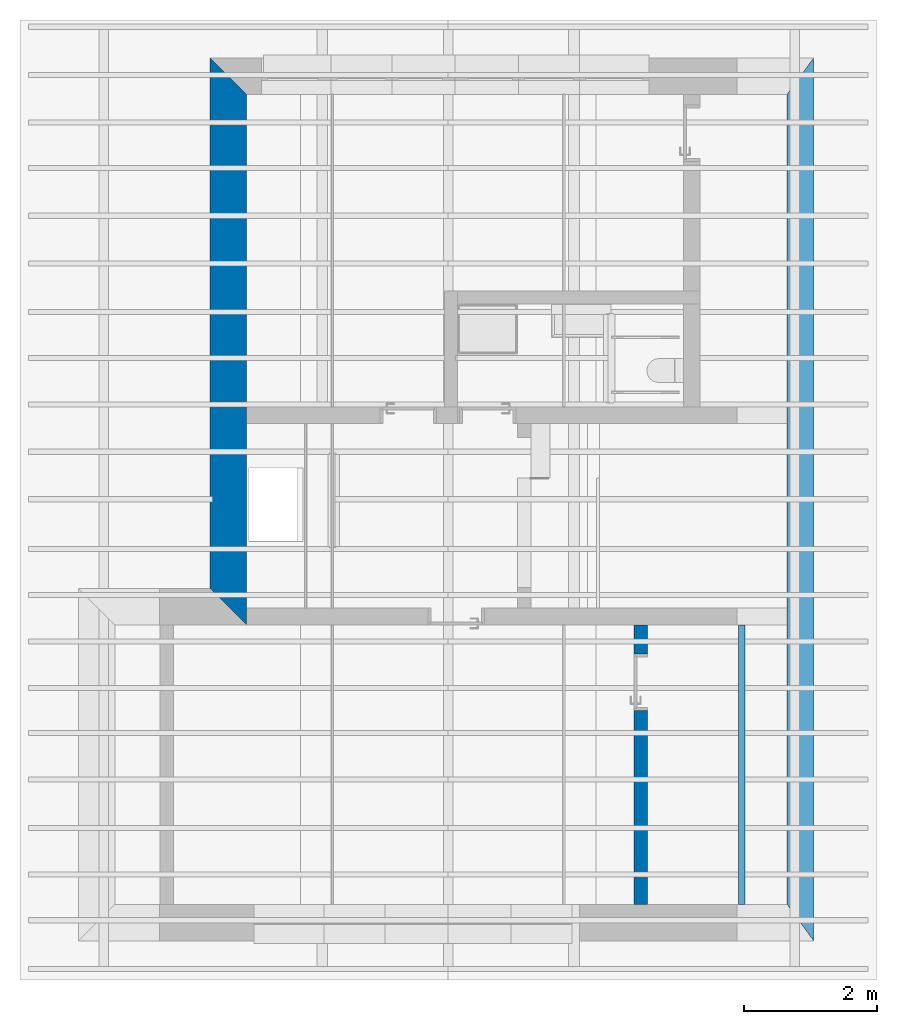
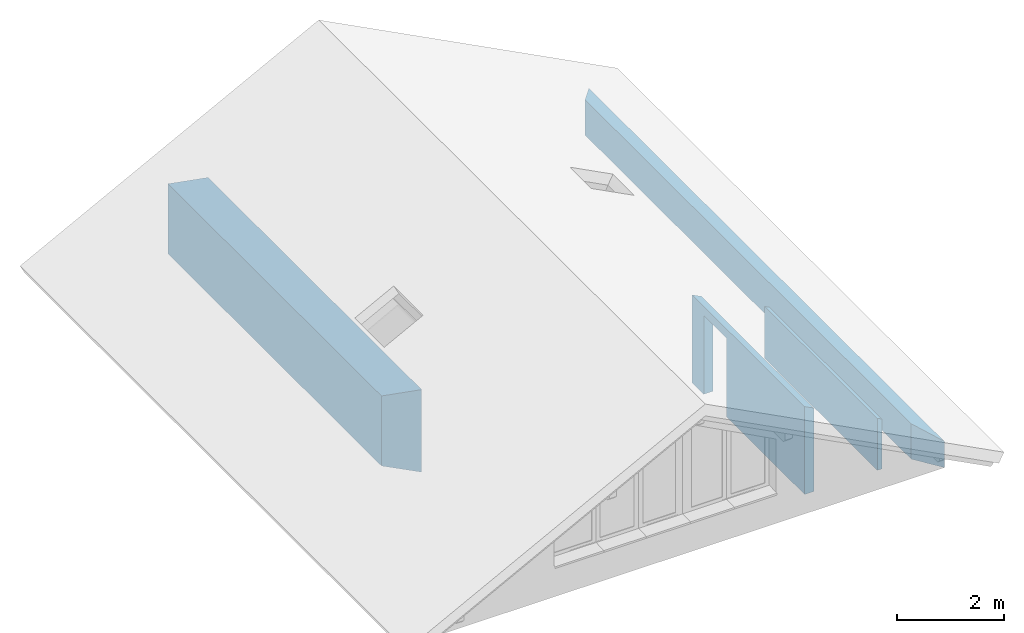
# One storey, part 7 of 18: 4 walls, 1 opening.
"""IFC2X3 building model written with IfcOpenShell, lengths in metres."""

from ifc_helpers import new_model, entity, si_unit, converted_unit, derived_unit, direction, frame, frame_2d, origin, place, context, subcontext, project, spatial, polyline, rectangle, outline, extrude, clip, bounded_halfspace, material, layer, layer_set, layer_usage, type_object, element, save


model = new_model("IFC2X3")

# Units and contexts
model_context = context("Model", 3, precision=1e-05, world=origin(), true_north=direction((6.123233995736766e-17, 1.0)))
body_context = subcontext(model_context, "Body", "Model", "MODEL_VIEW")
ifc_project = project(units=[si_unit("LENGTHUNIT", "METRE"), si_unit("AREAUNIT", "SQUARE_METRE"), si_unit("VOLUMEUNIT", "CUBIC_METRE"), si_unit("POWERUNIT", "WATT"), derived_unit("USERDEFINED", [(si_unit("MASSUNIT", "GRAM", prefix="KILO"), 1), (si_unit("TIMEUNIT", "SECOND"), -3)]), derived_unit("THERMALRESISTANCEUNIT", [(si_unit("MASSUNIT", "GRAM", prefix="KILO"), -1), (si_unit("TIMEUNIT", "SECOND"), 3), (si_unit("THERMODYNAMICTEMPERATUREUNIT", "KELVIN"), 1)]), derived_unit("USERDEFINED", [(si_unit("MASSUNIT", "GRAM", prefix="KILO"), 1), (si_unit("TIMEUNIT", "SECOND"), -2), (si_unit("THERMODYNAMICTEMPERATUREUNIT", "KELVIN"), -1)]), derived_unit("THERMALTRANSMITTANCEUNIT", [(si_unit("MASSUNIT", "GRAM", prefix="KILO"), 1), (si_unit("TIMEUNIT", "SECOND"), -3), (si_unit("THERMODYNAMICTEMPERATUREUNIT", "KELVIN"), -1)]), converted_unit("PLANEANGLEUNIT", "DEGREE", entity("IfcPlaneAngleMeasure", 0.017453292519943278), si_unit("PLANEANGLEUNIT", "RADIAN"), dimensions=[0, 0, 0, 0, 0, 0, 0]), derived_unit("MOMENTOFINERTIAUNIT", [(si_unit("LENGTHUNIT", "METRE"), 4)])], contexts=[model_context])

# Site, building, storey
site_placement = place(None, origin())
site = spatial("IfcSite", under=ifc_project, at=site_placement, Name="Default", CompositionType="ELEMENT")
building_placement = place(site_placement, origin())
building = spatial("IfcBuilding", under=site, at=building_placement, CompositionType="ELEMENT")
storey_placement = place(building_placement, frame((0.0, 0.0, 5.4)))
storey = spatial("IfcBuildingStorey", under=building, at=storey_placement, Name="1. Obergeschoss", CompositionType="ELEMENT", Elevation=5.4)

# Wall
ifc_material_1 = material(Name="Dämmung - hart")
ifc_layer_1 = layer(ifc_material_1, 0.24999999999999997)
ifc_material_2 = material(Name="Mauerwerk - Ziegel")
ifc_layer_2 = layer(ifc_material_2, 0.29999999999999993)
ifc_layer_set_1 = layer_set([ifc_layer_1, ifc_layer_2], Name="Basiswand:Ziegel+WD hart 300+250")
ifc_layer_usage_1 = layer_usage(ifc_layer_set_1, "AXIS2", "POSITIVE", -0.27499999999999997)
wall_type_1 = type_object("IfcWallType", Name="Basiswand:Ziegel+WD hart 300+250", PredefinedType="STANDARD", material=ifc_layer_set_1)
wall_1_placement = place(storey_placement, frame((29.81172000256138, 28.592272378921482, 0.0), z_axis=(0.0, 0.0, 1.0), x_axis=(0.0, -1.0, 0.0)))
element("IfcWallStandardCase", 1, at=wall_1_placement, inside=storey, type_object=wall_type_1, material=ifc_layer_usage_1, Name="Basiswand:Ziegel+WD hart 300+250", ObjectType="Basiswand:Ziegel+WD hart 300+250", context=body_context, shape_type="Clipping", body=[
    clip(extrude(outline(polyline([(7.989999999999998, -0.27500000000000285), (8.54, 0.2749999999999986), (8.289999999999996, 0.2749999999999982), (5.510000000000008, 0.27499999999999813), (5.260000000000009, 0.27499999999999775), (0.5500000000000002, 0.274999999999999), (0.0, -0.27500000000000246), (7.989999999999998, -0.27500000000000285)])), origin(), (0.0, 0.0, 1.0), 1.8848151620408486), bounded_halfspace(frame((0.0, -0.27500000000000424, 1.598503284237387), z_axis=(0.0, -0.4617486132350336, 0.8870108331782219), x_axis=(1.0, 0.0, 0.0)), False, frame((0.0, -0.27500000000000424, 1.598503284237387)), polyline([(0.0, 0.0), (7.989999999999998, 0.0), (8.54, 0.5500000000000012), (8.289999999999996, 0.5500000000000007), (5.510000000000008, 0.5500000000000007), (5.260000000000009, 0.5500000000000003), (0.5500000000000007, 0.5500000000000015), (0.0, 0.0)]))),
])

# Wall, opening
ifc_layer_3 = layer(ifc_material_2, 0.2)
ifc_layer_set_2 = layer_set([ifc_layer_3], Name="Basiswand:Ziegel 200")
ifc_layer_usage_2 = layer_usage(ifc_layer_set_2, "AXIS2", "NEGATIVE", 0.1)
wall_type_2 = type_object("IfcWallType", Name="Basiswand:Ziegel 200", PredefinedType="STANDARD", material=ifc_layer_set_2)
wall_2_placement = place(storey_placement, frame((36.02375489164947, 20.05227237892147, 0.0), z_axis=(0.0, 0.0, 1.0), x_axis=(0.0, -1.0, 0.0)))
wall_2 = element("IfcWallStandardCase", 2, at=wall_2_placement, inside=storey, type_object=wall_type_2, material=ifc_layer_usage_2, Name="Basiswand:Ziegel 200", ObjectType="Basiswand:Ziegel 200", context=body_context, shape_type="Clipping", body=[
    clip(extrude(rectangle(XDim=4.210000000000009, YDim=0.20000000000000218, at=frame_2d((2.1050000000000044, -2.3592239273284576e-15), x_axis=(1.0, 0.0))), origin(), (0.0, 0.0, 1.0), 2.0069317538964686), bounded_halfspace(frame((0.0, -0.10000000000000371, 2.0069317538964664), z_axis=(0.0, 0.4617486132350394, 0.8870108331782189), x_axis=(-1.0, 0.0, 0.0)), False, frame((0.0, -0.10000000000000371, 2.0069317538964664)), polyline([(0.0, 0.0), (4.210000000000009, 0.0), (4.210000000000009, 0.2000000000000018), (0.0, 0.20000000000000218), (0.0, 0.0)]))),
])
opening_placement = place(wall_2_placement, frame((1.2899999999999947, 0.10000000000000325, -0.18000000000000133)))
element("IfcOpeningElement", 3, at=opening_placement, cuts=wall_2, Name="TU DF 1 - Rahmenstock flächenbündig:DL - 720 x 1700:1", ObjectType="Opening", context=body_context, shape_type="SweptSolid", body=[
    extrude(rectangle(XDim=1.974999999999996, YDim=0.8499999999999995, at=frame_2d((0.987499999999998, 0.42499999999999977), x_axis=(-1.0, 0.0))), frame((0.0, 0.0, 0.0), z_axis=(0.0, -1.0, 0.0), x_axis=(0.0, 0.0, 1.0)), (0.0, 0.0, 1.0), 0.2),
])

# Walls
ifc_layer_4 = layer(ifc_material_1, 0.2)
ifc_layer_5 = layer(ifc_material_2, 0.2)
ifc_layer_set_3 = layer_set([ifc_layer_4, ifc_layer_5], Name="Basiswand:Ziegel+WD hart 200+200")
ifc_layer_usage_3 = layer_usage(ifc_layer_set_3, "AXIS2", "POSITIVE", -0.2)
wall_type_3 = type_object("IfcWallType", Name="Basiswand:Ziegel+WD hart 200+200", PredefinedType="STANDARD", material=ifc_layer_set_3)
wall_3_placement = place(storey_placement, frame((38.42672000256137, 15.292272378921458, 0.0), z_axis=(0.0, 0.0, 1.0), x_axis=(0.0, 1.0, 0.0)))
element("IfcWallStandardCase", 4, at=wall_3_placement, inside=storey, type_object=wall_type_3, material=ifc_layer_usage_3, Name="Basiswand:Ziegel+WD hart 200+200", ObjectType="Basiswand:Ziegel+WD hart 200+200", context=body_context, shape_type="Clipping", body=[
    clip(extrude(outline(polyline([(13.299999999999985, -0.19999999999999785), (12.749999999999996, 0.2000000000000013), (8.039999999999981, 0.2000000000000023), (7.789999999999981, 0.20000000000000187), (5.0100000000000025, 0.20000000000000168), (4.7600000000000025, 0.20000000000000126), (0.5499999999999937, 0.20000000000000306), (0.0, -0.19999999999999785), (13.299999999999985, -0.19999999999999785)])), origin(), (0.0, 0.0, 1.0), 0.8080839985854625), bounded_halfspace(frame((0.0, -0.19999999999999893, 0.5998571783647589), z_axis=(0.0, -0.4617486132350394, 0.8870108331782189), x_axis=(1.0, 0.0, 0.0)), False, frame((0.0, -0.19999999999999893, 0.5998571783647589)), polyline([(0.0, 0.0), (13.299999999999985, 0.0), (12.749999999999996, 0.39999999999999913), (8.039999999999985, 0.40000000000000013), (7.789999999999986, 0.3999999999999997), (5.0100000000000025, 0.39999999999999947), (4.760000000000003, 0.39999999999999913), (0.5499999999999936, 0.4000000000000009), (0.0, 0.0)]))),
])
ifc_layer_6 = layer(ifc_material_2, 0.1)
ifc_layer_set_4 = layer_set([ifc_layer_6], Name="Basiswand:Ziegel 100")
ifc_layer_usage_4 = layer_usage(ifc_layer_set_4, "AXIS2", "NEGATIVE", 0.05)
wall_type_4 = type_object("IfcWallType", Name="Basiswand:Ziegel 100", PredefinedType="STANDARD", material=ifc_layer_set_4)
wall_4_placement = place(storey_placement, frame((37.544488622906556, 20.052272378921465, 0.0), z_axis=(0.0, 0.0, 1.0), x_axis=(0.0, -1.0, 0.0)))
element("IfcWallStandardCase", 5, at=wall_4_placement, inside=storey, type_object=wall_type_4, material=ifc_layer_usage_4, Name="Basiswand:Ziegel 100", ObjectType="Basiswand:Ziegel 100", context=body_context, shape_type="Clipping", body=[
    clip(extrude(rectangle(XDim=4.210000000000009, YDim=0.10000000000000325, at=frame_2d((2.1050000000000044, -1.9081958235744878e-16), x_axis=(-1.0, 0.0))), origin(), (0.0, 0.0, 1.0), 1.1892595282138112), bounded_halfspace(frame((0.0, -0.049999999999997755, 1.189259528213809), z_axis=(0.0, 0.4617486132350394, 0.8870108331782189), x_axis=(-1.0, 0.0, 0.0)), False, frame((0.0, -0.049999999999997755, 1.189259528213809)), polyline([(0.0, 0.0), (4.210000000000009, 0.0), (4.210000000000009, 0.09999999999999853), (0.0, 0.09999999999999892), (0.0, 0.0)]))),
])

save(model, "model.ifc")
